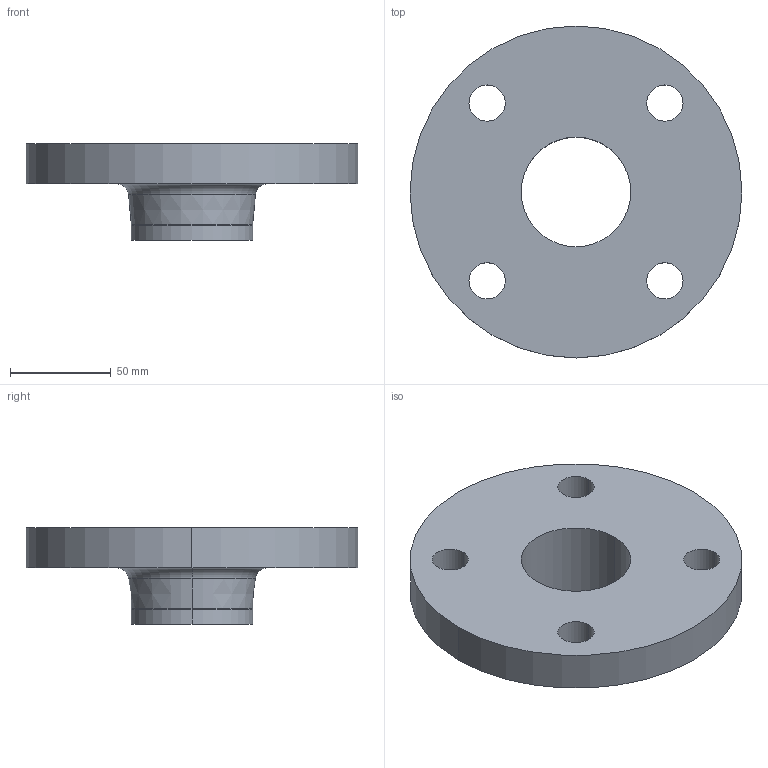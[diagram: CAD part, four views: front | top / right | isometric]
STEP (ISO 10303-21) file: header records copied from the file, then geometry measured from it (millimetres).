
FILE_DESCRIPTION (( 'STEP AP214' ), '1' );
FILE_NAME ('PN40 DN50 Type 11 - Type A Face.STEP', '2018-12-30T04:37:32', ( '' ), ( '' ), 'SwSTEP 2.0', 'SolidWorks 2019', '' );
FILE_SCHEMA (( 'AUTOMOTIVE_DESIGN' ));
Length unit declared in the file: millimetre
Products named in the file (1): PN40 DN50 Type 11 - Type A Face
Bounding box: 165 x 165 x 48 mm (x, y, z)
Volume: 380256.9 mm3; surface area: 63844.6 mm2
Topology: 1 solids, 1 shells, 23 faces, 54 edges, 34 vertices
Faces by surface type: cylinder 14, torus 4, plane 3, cone 2
Entity records: 732 total; most frequent: DIRECTION 140, CARTESIAN_POINT 112, ORIENTED_EDGE 108, AXIS2_PLACEMENT_3D 62, EDGE_CURVE 54, CIRCLE 38, VERTEX_POINT 34, EDGE_LOOP 34
